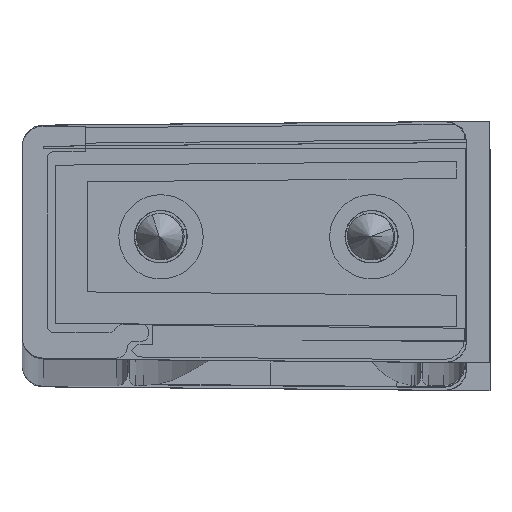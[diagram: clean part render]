
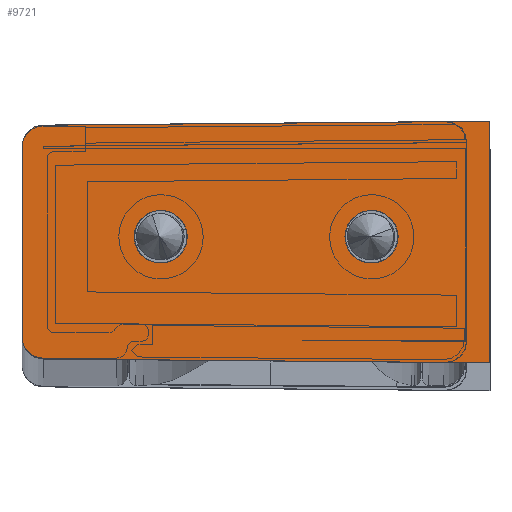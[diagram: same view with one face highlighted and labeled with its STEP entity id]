
A CAD part, top view. The second image highlights one B-rep face of the part: STEP entity #9721.
In plain terms, the highlighted planar face has unit normal (-0.009, 0, 1) as drawn and (0.009, 0, -1) by its records, which use the part's own axes.
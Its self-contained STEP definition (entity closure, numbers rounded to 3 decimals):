
#353 = LINE ( 'NONE', #32643, #7860 ) ;
#910 = CARTESIAN_POINT ( 'NONE',  ( 15.283, 4.1, -3.032 ) ) ;
#1460 = EDGE_CURVE ( 'NONE', #2986, #26848, #33293, .T. ) ;
#1843 = DIRECTION ( 'NONE',  ( -0.009, 0., 1. ) ) ;
#2313 = PLANE ( 'NONE',  #14902 ) ;
#2379 = CARTESIAN_POINT ( 'NONE',  ( 20.6, 8.395, -2.986 ) ) ;
#2458 = CIRCLE ( 'NONE', #20680, 1.25 ) ;
#2932 = CARTESIAN_POINT ( 'NONE',  ( 20.6, -1.276, -2.986 ) ) ;
#2986 = VERTEX_POINT ( 'NONE', #6461 ) ;
#3660 = DIRECTION ( 'NONE',  ( -0.009, 0., 1. ) ) ;
#4174 = ORIENTED_EDGE ( 'NONE', *, *, #1460, .T. ) ;
#4667 = CARTESIAN_POINT ( 'NONE',  ( 2.783, 4.1, -3.142 ) ) ;
#4830 = VECTOR ( 'NONE', #7151, 1000. ) ;
#4877 = DIRECTION ( 'NONE',  ( 0.009, 0., -1. ) ) ;
#6343 = EDGE_LOOP ( 'NONE', ( #12247, #13454 ) ) ;
#6461 = CARTESIAN_POINT ( 'NONE',  ( 19.609, 9.395, -2.995 ) ) ;
#6611 = EDGE_CURVE ( 'NONE', #28651, #2986, #8823, .T. ) ;
#6721 = VERTEX_POINT ( 'NONE', #26042 ) ;
#7151 = DIRECTION ( 'NONE',  ( 0., 1., 0. ) ) ;
#7860 = VECTOR ( 'NONE', #10893, 1000. ) ;
#7971 = VECTOR ( 'NONE', #37032, 1000. ) ;
#7985 = EDGE_LOOP ( 'NONE', ( #23969, #35164, #40120, #9099, #16378, #4174 ) ) ;
#8106 = EDGE_LOOP ( 'NONE', ( #28384, #18979 ) ) ;
#8497 = DIRECTION ( 'NONE',  ( 1., 0., 0.009 ) ) ;
#8823 = LINE ( 'NONE', #37352, #40996 ) ;
#9099 = ORIENTED_EDGE ( 'NONE', *, *, #17984, .T. ) ;
#9566 = DIRECTION ( 'NONE',  ( 1., 0., 0.009 ) ) ;
#9721 = ADVANCED_FACE ( 'NONE', ( #24458, #17720, #24876 ), #2313, .T. ) ;
#10893 = DIRECTION ( 'NONE',  ( 0., -1., 0. ) ) ;
#11125 = CARTESIAN_POINT ( 'NONE',  ( 5.283, 4.1, -3.12 ) ) ;
#11777 = VERTEX_POINT ( 'NONE', #4667 ) ;
#12029 = CARTESIAN_POINT ( 'NONE',  ( 20.19, -1.69, -2.99 ) ) ;
#12146 = AXIS2_PLACEMENT_3D ( 'NONE', #22617, #3660, #35958 ) ;
#12247 = ORIENTED_EDGE ( 'NONE', *, *, #28417, .T. ) ;
#12501 =( BOUNDED_CURVE ( )  B_SPLINE_CURVE ( 3, ( #14991, #2932, #12029, #27847 ),
 .UNSPECIFIED., .F., .T. ) 
 B_SPLINE_CURVE_WITH_KNOTS ( ( 4, 4 ),
 ( 3.142, 4.704 ),
 .UNSPECIFIED. ) 
 CURVE ( )  GEOMETRIC_REPRESENTATION_ITEM ( )  RATIONAL_B_SPLINE_CURVE ( ( 1., 0.807, 0.807, 1. ) ) 
 REPRESENTATION_ITEM ( '' )  );
#12676 = VERTEX_POINT ( 'NONE', #36355 ) ;
#13242 = CARTESIAN_POINT ( 'NONE',  ( 19.609, -1.695, -2.995 ) ) ;
#13454 = ORIENTED_EDGE ( 'NONE', *, *, #34787, .T. ) ;
#14902 = AXIS2_PLACEMENT_3D ( 'NONE', #40552, #4877, #30399 ) ;
#14991 = CARTESIAN_POINT ( 'NONE',  ( 20.6, -0.695, -2.986 ) ) ;
#15427 = DIRECTION ( 'NONE',  ( -0.009, 0., 1. ) ) ;
#16378 = ORIENTED_EDGE ( 'NONE', *, *, #6611, .T. ) ;
#16569 = AXIS2_PLACEMENT_3D ( 'NONE', #34063, #18010, #8497 ) ;
#16596 = VERTEX_POINT ( 'NONE', #910 ) ;
#17720 = FACE_BOUND ( 'NONE', #6343, .T. ) ;
#17984 = EDGE_CURVE ( 'NONE', #29920, #28651, #23374, .T. ) ;
#18010 = DIRECTION ( 'NONE',  ( -0.009, 0., 1. ) ) ;
#18202 = CARTESIAN_POINT ( 'NONE',  ( -1.6, 9.58, -3.18 ) ) ;
#18771 = CARTESIAN_POINT ( 'NONE',  ( -1.6, -1.88, -3.18 ) ) ;
#18979 = ORIENTED_EDGE ( 'NONE', *, *, #34632, .T. ) ;
#20453 = CARTESIAN_POINT ( 'NONE',  ( -1.6, -1.7, -3.18 ) ) ;
#20583 = CARTESIAN_POINT ( 'NONE',  ( 19.126, -1.699, -2.999 ) ) ;
#20680 = AXIS2_PLACEMENT_3D ( 'NONE', #34206, #15427, #30617 ) ;
#21276 = DIRECTION ( 'NONE',  ( 1., -0.009, 0.009 ) ) ;
#21384 = LINE ( 'NONE', #20583, #7971 ) ;
#22617 = CARTESIAN_POINT ( 'NONE',  ( 14.033, 4.1, -3.043 ) ) ;
#23374 = LINE ( 'NONE', #20453, #4830 ) ;
#23969 = ORIENTED_EDGE ( 'NONE', *, *, #29601, .T. ) ;
#24458 = FACE_BOUND ( 'NONE', #8106, .T. ) ;
#24876 = FACE_OUTER_BOUND ( 'NONE', #7985, .T. ) ;
#25402 = EDGE_CURVE ( 'NONE', #16596, #6721, #30327, .T. ) ;
#26042 = CARTESIAN_POINT ( 'NONE',  ( 12.783, 4.1, -3.054 ) ) ;
#26848 = VERTEX_POINT ( 'NONE', #33977 ) ;
#27847 = CARTESIAN_POINT ( 'NONE',  ( 19.609, -1.695, -2.995 ) ) ;
#28376 = VERTEX_POINT ( 'NONE', #11125 ) ;
#28384 = ORIENTED_EDGE ( 'NONE', *, *, #25402, .T. ) ;
#28417 = EDGE_CURVE ( 'NONE', #28376, #11777, #39542, .T. ) ;
#28651 = VERTEX_POINT ( 'NONE', #18202 ) ;
#29186 = EDGE_CURVE ( 'NONE', #12676, #38119, #12501, .T. ) ;
#29361 = CIRCLE ( 'NONE', #16569, 1.25 ) ;
#29601 = EDGE_CURVE ( 'NONE', #26848, #12676, #353, .T. ) ;
#29920 = VERTEX_POINT ( 'NONE', #18771 ) ;
#30327 = CIRCLE ( 'NONE', #12146, 1.25 ) ;
#30399 = DIRECTION ( 'NONE',  ( -1., 0., -0.009 ) ) ;
#30617 = DIRECTION ( 'NONE',  ( 1., 0., 0.009 ) ) ;
#30739 = CARTESIAN_POINT ( 'NONE',  ( 4.033, 4.1, -3.131 ) ) ;
#31726 = CARTESIAN_POINT ( 'NONE',  ( 19.609, 9.395, -2.995 ) ) ;
#32643 = CARTESIAN_POINT ( 'NONE',  ( 20.6, 9.4, -2.986 ) ) ;
#33293 =( BOUNDED_CURVE ( )  B_SPLINE_CURVE ( 3, ( #31726, #38073, #38279, #2379 ),
 .UNSPECIFIED., .F., .T. ) 
 B_SPLINE_CURVE_WITH_KNOTS ( ( 4, 4 ),
 ( 1.58, 3.142 ),
 .UNSPECIFIED. ) 
 CURVE ( )  GEOMETRIC_REPRESENTATION_ITEM ( )  RATIONAL_B_SPLINE_CURVE ( ( 1., 0.807, 0.807, 1. ) ) 
 REPRESENTATION_ITEM ( '' )  );
#33977 = CARTESIAN_POINT ( 'NONE',  ( 20.6, 8.395, -2.986 ) ) ;
#34063 = CARTESIAN_POINT ( 'NONE',  ( 14.033, 4.1, -3.043 ) ) ;
#34206 = CARTESIAN_POINT ( 'NONE',  ( 4.033, 4.1, -3.131 ) ) ;
#34632 = EDGE_CURVE ( 'NONE', #6721, #16596, #29361, .T. ) ;
#34787 = EDGE_CURVE ( 'NONE', #11777, #28376, #2458, .T. ) ;
#35164 = ORIENTED_EDGE ( 'NONE', *, *, #29186, .T. ) ;
#35958 = DIRECTION ( 'NONE',  ( 1., 0., 0.009 ) ) ;
#36355 = CARTESIAN_POINT ( 'NONE',  ( 20.6, -0.695, -2.986 ) ) ;
#37032 = DIRECTION ( 'NONE',  ( -1., -0.009, -0.009 ) ) ;
#37352 = CARTESIAN_POINT ( 'NONE',  ( 19.126, 9.399, -2.999 ) ) ;
#38073 = CARTESIAN_POINT ( 'NONE',  ( 20.19, 9.39, -2.99 ) ) ;
#38119 = VERTEX_POINT ( 'NONE', #13242 ) ;
#38279 = CARTESIAN_POINT ( 'NONE',  ( 20.6, 8.976, -2.986 ) ) ;
#39405 = EDGE_CURVE ( 'NONE', #38119, #29920, #21384, .T. ) ;
#39542 = CIRCLE ( 'NONE', #40839, 1.25 ) ;
#40120 = ORIENTED_EDGE ( 'NONE', *, *, #39405, .T. ) ;
#40552 = CARTESIAN_POINT ( 'NONE',  ( 19., 0., -3. ) ) ;
#40839 = AXIS2_PLACEMENT_3D ( 'NONE', #30739, #1843, #9566 ) ;
#40996 = VECTOR ( 'NONE', #21276, 1000. ) ;
